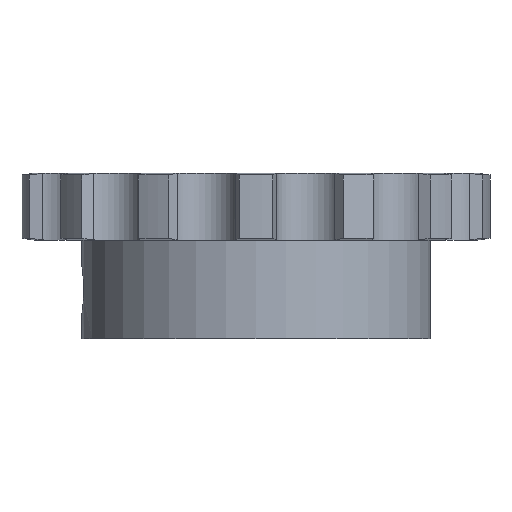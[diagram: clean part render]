
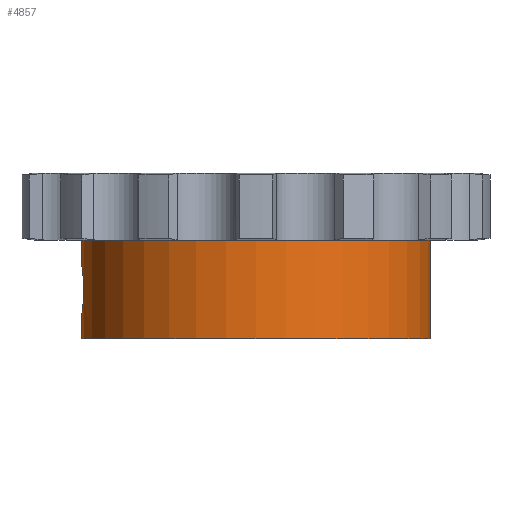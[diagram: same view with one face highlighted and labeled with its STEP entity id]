
A CAD part, front view. The second image highlights one B-rep face of the part: STEP entity #4857.
In plain terms, the highlighted cylindrical face has radius 42 mm (diameter 84 mm), a partial arc.
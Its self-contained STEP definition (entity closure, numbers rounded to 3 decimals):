
#943=CARTESIAN_POINT('',(0.,0.,-8.1));
#944=DIRECTION('',(0.,0.,1.));
#945=DIRECTION('',(-1.,0.,0.));
#946=AXIS2_PLACEMENT_3D('',#943,#944,#945);
#2278=CARTESIAN_POINT('',(-42.,0.,
-14.));
#2303=DIRECTION('',(0.,0.,1.));
#2304=VECTOR('',#2303,23.8);
#2305=CARTESIAN_POINT('',(42.,0.,-31.9));
#2306=LINE('',#2305,#2304);
#2433=CARTESIAN_POINT('',(0.,0.,-31.9));
#2434=DIRECTION('',(0.,0.,-1.));
#2435=DIRECTION('',(1.,0.,0.));
#2436=AXIS2_PLACEMENT_3D('',#2433,#2434,#2435);
#2462=CARTESIAN_POINT('',(-42.,0.,
-14.));
#2463=CARTESIAN_POINT('',(-42.,-0.225,
-14.));
#2464=CARTESIAN_POINT('',(-41.996,-0.703,
-14.026));
#2465=CARTESIAN_POINT('',(-41.978,-1.432,
-14.15));
#2466=CARTESIAN_POINT('',(-41.946,-2.168,
-14.371));
#2467=CARTESIAN_POINT('',(-41.904,-2.869,
-14.681));
#2468=CARTESIAN_POINT('',(-41.854,-3.523,
-15.072));
#2469=CARTESIAN_POINT('',(-41.799,-4.121,
-15.539));
#2470=CARTESIAN_POINT('',(-41.742,-4.653,
-16.072));
#2471=CARTESIAN_POINT('',(-41.688,-5.113,
-16.665));
#2472=CARTESIAN_POINT('',(-41.64,-5.494,
-17.309));
#2473=CARTESIAN_POINT('',(-41.599,-5.791,
-17.992));
#2474=CARTESIAN_POINT('',(-41.57,-5.998,
-18.7));
#2475=CARTESIAN_POINT('',(-41.554,-6.106,
-19.374));
#2476=CARTESIAN_POINT('',(-41.551,-6.128,
-19.807));
#2477=CARTESIAN_POINT('',(-41.551,-6.128,
-20.));
#2482=DIRECTION('',(0.,0.,1.));
#2483=VECTOR('',#2482,5.9);
#2484=CARTESIAN_POINT('',(-42.,0.,
-14.));
#2485=LINE('',#2484,#2483);
#2489=DIRECTION('',(0.,0.,1.));
#2490=VECTOR('',#2489,5.9);
#2491=CARTESIAN_POINT('',(-42.,0.,-31.9));
#2492=LINE('',#2491,#2490);
#2496=CARTESIAN_POINT('',(-41.551,-6.128,
-20.));
#2497=CARTESIAN_POINT('',(-41.551,-6.128,
-20.205));
#2498=CARTESIAN_POINT('',(-41.554,-6.105,
-20.648));
#2499=CARTESIAN_POINT('',(-41.571,-5.99,
-21.332));
#2500=CARTESIAN_POINT('',(-41.601,-5.78,
-22.036));
#2501=CARTESIAN_POINT('',(-41.641,-5.482,
-22.715));
#2502=CARTESIAN_POINT('',(-41.69,-5.099,
-23.355));
#2503=CARTESIAN_POINT('',(-41.744,-4.639,
-23.943));
#2504=CARTESIAN_POINT('',(-41.8,-4.107,
-24.473));
#2505=CARTESIAN_POINT('',(-41.855,-3.511,
-24.936));
#2506=CARTESIAN_POINT('',(-41.904,-2.858,
-25.325));
#2507=CARTESIAN_POINT('',(-41.947,-2.159,
-25.632));
#2508=CARTESIAN_POINT('',(-41.978,-1.426,
-25.851));
#2509=CARTESIAN_POINT('',(-41.996,-0.701,
-25.974));
#2510=CARTESIAN_POINT('',(-42.,-0.224,
-26.));
#2511=CARTESIAN_POINT('',(-42.,0.,
-26.));
#2843=CARTESIAN_POINT('',(-42.,0.,-31.9));
#2844=CARTESIAN_POINT('',(42.,0.,-31.9));
#2845=VERTEX_POINT('',#2843);
#2846=VERTEX_POINT('',#2844);
#2847=CARTESIAN_POINT('',(42.,0.,-8.1));
#2848=VERTEX_POINT('',#2847);
#2849=CARTESIAN_POINT('',(-42.,0.,-8.1));
#2850=VERTEX_POINT('',#2849);
#3002=VERTEX_POINT('',#2278);
#3005=VERTEX_POINT('',#2477);
#3007=VERTEX_POINT('',#2511);
#4841=CARTESIAN_POINT('',(0.,0.,8.1));
#4842=DIRECTION('',(0.,0.,1.));
#4843=DIRECTION('',(1.,0.,0.));
#4844=AXIS2_PLACEMENT_3D('',#4841,#4842,#4843);
#4845=CYLINDRICAL_SURFACE('',#4844,42.);
#4847=ORIENTED_EDGE('',*,*,#4846,.F.);
#4848=ORIENTED_EDGE('',*,*,#4503,.T.);
#4849=ORIENTED_EDGE('',*,*,#3881,.T.);
#4850=ORIENTED_EDGE('',*,*,#4500,.F.);
#4851=ORIENTED_EDGE('',*,*,#4827,.T.);
#4852=ORIENTED_EDGE('',*,*,#4496,.T.);
#4854=ORIENTED_EDGE('',*,*,#4853,.F.);
#4855=EDGE_LOOP('',(#4847,#4848,#4849,#4850,#4851,#4852,#4854));
#4856=FACE_OUTER_BOUND('',#4855,.F.);
#4857=ADVANCED_FACE('',(#4856),#4845,.T.);
#947=CIRCLE('',#946,42.);
#2437=CIRCLE('',#2436,42.);
#2478=B_SPLINE_CURVE_WITH_KNOTS('',3,(#2462,#2463,#2464,#2465,#2466,#2467,#2468,
#2469,#2470,#2471,#2472,#2473,#2474,#2475,#2476,#2477),.UNSPECIFIED.,.F.,.F.,(4,
1,1,1,1,1,1,1,1,1,1,1,1,4),(0.,0.07,0.149,
0.228,0.306,0.385,0.464,
0.542,0.621,0.7,0.778,
0.857,0.936,1.),.UNSPECIFIED.);
#2512=B_SPLINE_CURVE_WITH_KNOTS('',3,(#2496,#2497,#2498,#2499,#2500,#2501,#2502,
#2503,#2504,#2505,#2506,#2507,#2508,#2509,#2510,#2511),.UNSPECIFIED.,.F.,.F.,(4,
1,1,1,1,1,1,1,1,1,1,1,1,4),(0.,0.068,0.147,
0.225,0.303,0.382,0.46,
0.538,0.617,0.695,0.773,
0.852,0.93,1.),.UNSPECIFIED.);
#3881=EDGE_CURVE('',#2850,#2848,#947,.T.);
#4496=EDGE_CURVE('',#2845,#3007,#2492,.T.);
#4500=EDGE_CURVE('',#2846,#2848,#2306,.T.);
#4503=EDGE_CURVE('',#3002,#2850,#2485,.T.);
#4827=EDGE_CURVE('',#2846,#2845,#2437,.T.);
#4846=EDGE_CURVE('',#3002,#3005,#2478,.T.);
#4853=EDGE_CURVE('',#3005,#3007,#2512,.T.);
